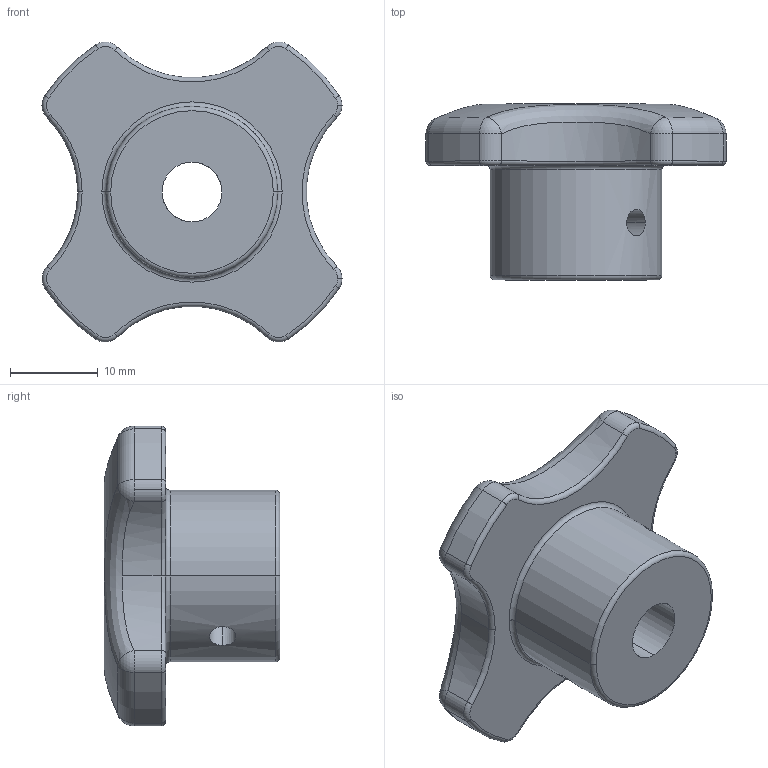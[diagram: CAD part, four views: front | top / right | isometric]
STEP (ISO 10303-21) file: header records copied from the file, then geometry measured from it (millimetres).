
FILE_DESCRIPTION (( 'STEP AP203' ), '1' );
FILE_NAME ('13.20002.STEP', '2017-10-03T14:52:13', ( 'Ricardo' ), ( '' ), 'SwSTEP 2.0', 'SolidWorks 2015', '' );
FILE_SCHEMA (( 'CONFIG_CONTROL_DESIGN' ));
Length unit declared in the file: millimetre
Products named in the file (1): 13.20002
Bounding box: 34.12 x 20 x 34.11 mm (x, y, z)
Volume: 8477.7 mm3; surface area: 3733.2 mm2
Topology: 1 solids, 1 shells, 76 faces, 168 edges, 96 vertices
Faces by surface type: cylinder 29, torus 29, sphere 8, plane 4, bspline 4, cone 2
Entity records: 2856 total; most frequent: CARTESIAN_POINT 1056, DIRECTION 413, ORIENTED_EDGE 336, AXIS2_PLACEMENT_3D 191, EDGE_CURVE 168, CIRCLE 118, VERTEX_POINT 96, EDGE_LOOP 84
